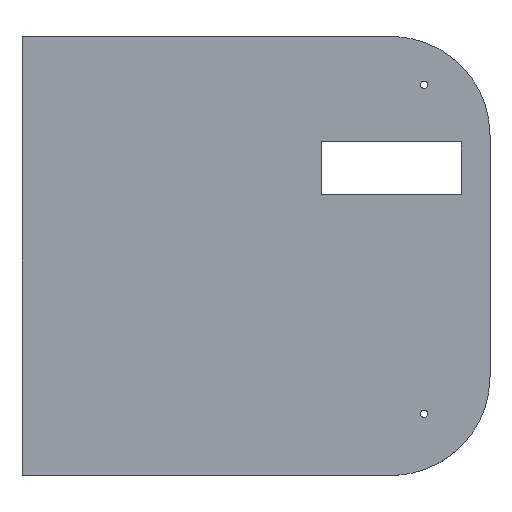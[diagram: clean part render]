
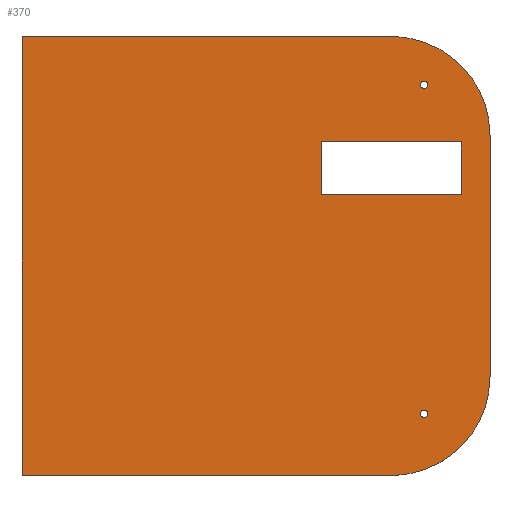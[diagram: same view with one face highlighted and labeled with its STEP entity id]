
A CAD part, top view. The second image highlights one B-rep face of the part: STEP entity #370.
In plain terms, the highlighted planar face has unit normal (0, 0, 1).
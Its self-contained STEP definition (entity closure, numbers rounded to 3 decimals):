
#11=DIRECTION('',(0.0,0.0,1.0));
#12=DIRECTION('',(1.0,0.0,0.0));
#20=DIRECTION('',(0.0,1.0,0.0));
#43=DIRECTION('',(-1.0,0.0,0.0));
#44=VECTOR('',#43,64.0);
#52=VECTOR('',#20,24.0);
#86=VECTOR('',#20,200.0);
#94=VECTOR('',#12,168.333);
#106=VECTOR('',#20,110.0);
#129=CARTESIAN_POINT('',(291.7,78.0,100.0));
#130=VERTEX_POINT('',#129);
#136=CARTESIAN_POINT('',(291.7,76.3,100.0));
#137=CARTESIAN_POINT('',(290.0,76.3,100.0));
#138=CARTESIAN_POINT('',(288.3,76.3,100.0));
#139=CARTESIAN_POINT('',(288.3,78.0,100.0));
#140=(BOUNDED_CURVE()B_SPLINE_CURVE(2,(#139,#138,#137,#136,#129),.UNSPECIFIED.,.U.,.U.)B_SPLINE_CURVE_WITH_KNOTS((3,2,3),(0.0,0.5,1.0),.UNSPECIFIED.)CURVE()GEOMETRIC_REPRESENTATION_ITEM()RATIONAL_B_SPLINE_CURVE((1.0,0.707,1.0,0.707,1.0))REPRESENTATION_ITEM(''));
#141=VERTEX_POINT('',#139);
#142=EDGE_CURVE('',#141,#130,#140,.T.);
#144=CARTESIAN_POINT('',(288.3,79.7,100.0));
#145=CARTESIAN_POINT('',(290.0,79.7,100.0));
#146=CARTESIAN_POINT('',(291.7,79.7,100.0));
#147=(BOUNDED_CURVE()B_SPLINE_CURVE(2,(#129,#146,#145,#144,#139),.UNSPECIFIED.,.U.,.U.)B_SPLINE_CURVE_WITH_KNOTS((3,2,3),(0.0,0.5,1.0),.UNSPECIFIED.)CURVE()GEOMETRIC_REPRESENTATION_ITEM()RATIONAL_B_SPLINE_CURVE((1.0,0.707,1.0,0.707,1.0))REPRESENTATION_ITEM(''));
#148=EDGE_CURVE('',#130,#141,#147,.T.);
#158=CARTESIAN_POINT('',(307.0,52.0,100.0));
#159=VERTEX_POINT('',#158);
#164=CARTESIAN_POINT('',(243.0,52.0,100.0));
#165=VERTEX_POINT('',#164);
#168=LINE('',#158,#44);
#169=EDGE_CURVE('',#159,#165,#168,.T.);
#178=CARTESIAN_POINT('',(243.0,28.0,100.0));
#179=LINE('',#178,#52);
#180=VERTEX_POINT('',#178);
#181=EDGE_CURVE('',#180,#165,#179,.T.);
#195=CARTESIAN_POINT('',(307.0,28.0,100.0));
#196=VERTEX_POINT('',#195);
#201=LINE('',#195,#52);
#202=EDGE_CURVE('',#196,#159,#201,.T.);
#209=LINE('',#195,#44);
#210=EDGE_CURVE('',#196,#180,#209,.T.);
#222=CARTESIAN_POINT('',(291.7,-72.0,100.0));
#223=VERTEX_POINT('',#222);
#229=CARTESIAN_POINT('',(291.7,-73.7,100.0));
#230=CARTESIAN_POINT('',(290.0,-73.7,100.0));
#231=CARTESIAN_POINT('',(288.3,-73.7,100.0));
#232=CARTESIAN_POINT('',(288.3,-72.0,100.0));
#233=(BOUNDED_CURVE()B_SPLINE_CURVE(2,(#232,#231,#230,#229,#222),.UNSPECIFIED.,.U.,.U.)B_SPLINE_CURVE_WITH_KNOTS((3,2,3),(0.0,0.5,1.0),.UNSPECIFIED.)CURVE()GEOMETRIC_REPRESENTATION_ITEM()RATIONAL_B_SPLINE_CURVE((1.0,0.707,1.0,0.707,1.0))REPRESENTATION_ITEM(''));
#234=VERTEX_POINT('',#232);
#235=EDGE_CURVE('',#234,#223,#233,.T.);
#237=CARTESIAN_POINT('',(288.3,-70.3,100.0));
#238=CARTESIAN_POINT('',(290.0,-70.3,100.0));
#239=CARTESIAN_POINT('',(291.7,-70.3,100.0));
#240=(BOUNDED_CURVE()B_SPLINE_CURVE(2,(#222,#239,#238,#237,#232),.UNSPECIFIED.,.U.,.U.)B_SPLINE_CURVE_WITH_KNOTS((3,2,3),(0.0,0.5,1.0),.UNSPECIFIED.)CURVE()GEOMETRIC_REPRESENTATION_ITEM()RATIONAL_B_SPLINE_CURVE((1.0,0.707,1.0,0.707,1.0))REPRESENTATION_ITEM(''));
#241=EDGE_CURVE('',#223,#234,#240,.T.);
#250=CARTESIAN_POINT('',(106.667,-100.0,100.0));
#252=VERTEX_POINT('',#250);
#255=LINE('',#250,#94);
#256=CARTESIAN_POINT('',(275.0,-100.0,100.0));
#257=VERTEX_POINT('',#256);
#258=EDGE_CURVE('',#252,#257,#255,.T.);
#270=CARTESIAN_POINT('',(320.0,-100.0,100.0));
#271=CARTESIAN_POINT('',(320.0,-55.0,100.0));
#272=(BOUNDED_CURVE()B_SPLINE_CURVE(2,(#271,#270,#256),.UNSPECIFIED.,.U.,.U.)B_SPLINE_CURVE_WITH_KNOTS((3,3),(0.0,1.0),.UNSPECIFIED.)CURVE()GEOMETRIC_REPRESENTATION_ITEM()RATIONAL_B_SPLINE_CURVE((1.0,0.707,1.0))REPRESENTATION_ITEM(''));
#273=VERTEX_POINT('',#271);
#274=EDGE_CURVE('',#273,#257,#272,.T.);
#287=CARTESIAN_POINT('',(320.0,55.0,100.0));
#288=VERTEX_POINT('',#287);
#293=LINE('',#271,#106);
#294=EDGE_CURVE('',#273,#288,#293,.T.);
#304=CARTESIAN_POINT('',(275.0,100.0,100.0));
#305=VERTEX_POINT('',#304);
#310=CARTESIAN_POINT('',(320.0,100.0,100.0));
#311=(BOUNDED_CURVE()B_SPLINE_CURVE(2,(#287,#310,#304),.UNSPECIFIED.,.U.,.U.)B_SPLINE_CURVE_WITH_KNOTS((3,3),(0.0,1.0),.UNSPECIFIED.)CURVE()GEOMETRIC_REPRESENTATION_ITEM()RATIONAL_B_SPLINE_CURVE((1.0,0.707,1.0))REPRESENTATION_ITEM(''));
#312=EDGE_CURVE('',#288,#305,#311,.T.);
#321=CARTESIAN_POINT('',(106.667,100.0,100.0));
#322=LINE('',#321,#94);
#323=VERTEX_POINT('',#321);
#324=EDGE_CURVE('',#323,#305,#322,.T.);
#336=LINE('',#250,#86);
#337=EDGE_CURVE('',#252,#323,#336,.T.);
#345=CARTESIAN_POINT('',(-320.0,-100.0,100.0));
#346=AXIS2_PLACEMENT_3D('',#345,#11,#12);
#347=PLANE('',#346);
#348=ORIENTED_EDGE('',*,*,#148,.F.);
#349=ORIENTED_EDGE('',*,*,#142,.F.);
#350=EDGE_LOOP('',(#349,#348));
#351=FACE_BOUND('',#350,.T.);
#352=ORIENTED_EDGE('',*,*,#202,.F.);
#353=ORIENTED_EDGE('',*,*,#169,.F.);
#354=ORIENTED_EDGE('',*,*,#181,.T.);
#355=ORIENTED_EDGE('',*,*,#210,.T.);
#356=EDGE_LOOP('',(#355,#354,#353,#352));
#357=FACE_BOUND('',#356,.T.);
#358=ORIENTED_EDGE('',*,*,#241,.F.);
#359=ORIENTED_EDGE('',*,*,#235,.F.);
#360=EDGE_LOOP('',(#359,#358));
#361=FACE_BOUND('',#360,.T.);
#362=ORIENTED_EDGE('',*,*,#324,.F.);
#363=ORIENTED_EDGE('',*,*,#312,.T.);
#364=ORIENTED_EDGE('',*,*,#294,.T.);
#365=ORIENTED_EDGE('',*,*,#274,.F.);
#366=ORIENTED_EDGE('',*,*,#258,.T.);
#367=ORIENTED_EDGE('',*,*,#337,.F.);
#368=EDGE_LOOP('',(#367,#366,#365,#364,#363,#362));
#369=FACE_BOUND('',#368,.T.);
#370=ADVANCED_FACE('',(#369,#361,#357,#351),#347,.T.);
